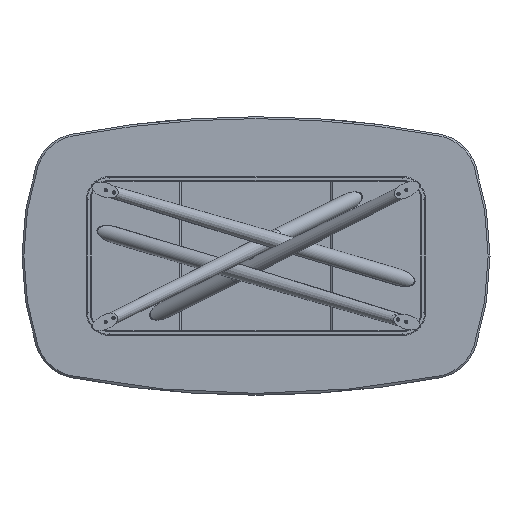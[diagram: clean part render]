
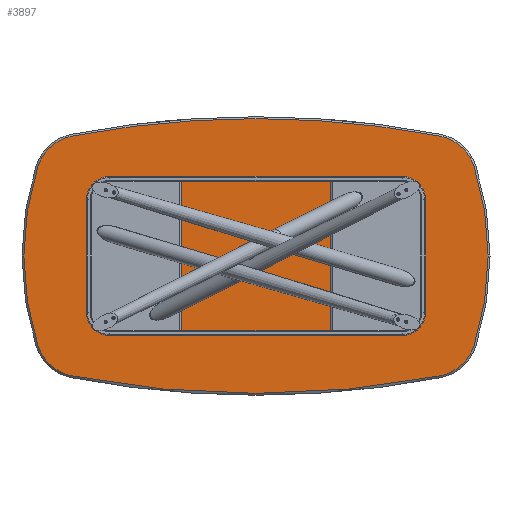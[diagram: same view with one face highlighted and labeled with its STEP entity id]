
A CAD part, front view. The second image highlights one B-rep face of the part: STEP entity #3897.
In plain terms, the highlighted planar face has unit normal (0, -1, 0).
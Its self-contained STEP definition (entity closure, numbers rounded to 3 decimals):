
#169 = DIRECTION ( 'NONE',  ( 0., 0., 1. ) ) ;
#364 = CIRCLE ( 'NONE', #7161, 1252. ) ;
#426 = CARTESIAN_POINT ( 'NONE',  ( 0., 0., 3605. ) ) ;
#451 = CARTESIAN_POINT ( 'NONE',  ( 260., 0., 0. ) ) ;
#476 = ORIENTED_EDGE ( 'NONE', *, *, #9491, .T. ) ;
#561 = CARTESIAN_POINT ( 'NONE',  ( -749.201, 0., -324.211 ) ) ;
#575 = AXIS2_PLACEMENT_3D ( 'NONE', #6450, #9655, #4904 ) ;
#610 = DIRECTION ( 'NONE',  ( 0., 0., 1. ) ) ;
#680 = CARTESIAN_POINT ( 'NONE',  ( 0., 0., -3605. ) ) ;
#917 = DIRECTION ( 'NONE',  ( 0., -1., 0. ) ) ;
#1106 = CARTESIAN_POINT ( 'NONE',  ( 932., 0., 382.936 ) ) ;
#1118 = CIRCLE ( 'NONE', #7570, 1252. ) ;
#1187 = CARTESIAN_POINT ( 'NONE',  ( 0., 0., 587. ) ) ;
#1587 = DIRECTION ( 'NONE',  ( 0., -1., 0. ) ) ;
#1687 = AXIS2_PLACEMENT_3D ( 'NONE', #426, #7071, #2870 ) ;
#1748 = CARTESIAN_POINT ( 'NONE',  ( -785.163, 0., -512.813 ) ) ;
#2163 = DIRECTION ( 'NONE',  ( 0., 0., 1. ) ) ;
#2201 = EDGE_CURVE ( 'NONE', #6388, #2283, #6857, .T. ) ;
#2211 = EDGE_CURVE ( 'NONE', #4292, #9478, #2271, .T. ) ;
#2271 = CIRCLE ( 'NONE', #575, 192. ) ;
#2283 = VERTEX_POINT ( 'NONE', #5370 ) ;
#2338 = EDGE_CURVE ( 'NONE', #9072, #6005, #9376, .T. ) ;
#2509 = CARTESIAN_POINT ( 'NONE',  ( -785.163, 0., 512.813 ) ) ;
#2516 = FACE_OUTER_BOUND ( 'NONE', #9132, .T. ) ;
#2617 = DIRECTION ( 'NONE',  ( 0., 0., 1. ) ) ;
#2811 = ORIENTED_EDGE ( 'NONE', *, *, #2201, .T. ) ;
#2870 = DIRECTION ( 'NONE',  ( 0., 0., 1. ) ) ;
#2909 = CARTESIAN_POINT ( 'NONE',  ( -932., 0., 382.936 ) ) ;
#2951 = CARTESIAN_POINT ( 'NONE',  ( 0., 0., -3605. ) ) ;
#2959 = ORIENTED_EDGE ( 'NONE', *, *, #2338, .T. ) ;
#3290 = DIRECTION ( 'NONE',  ( 0., -1., 0. ) ) ;
#3519 = EDGE_CURVE ( 'NONE', #9478, #9072, #364, .T. ) ;
#3897 = ADVANCED_FACE ( 'NONE', ( #2516 ), #9817, .F. ) ;
#3933 = DIRECTION ( 'NONE',  ( 0., 0., 1. ) ) ;
#4292 = VERTEX_POINT ( 'NONE', #2509 ) ;
#4342 = CIRCLE ( 'NONE', #7042, 4192. ) ;
#4421 = ORIENTED_EDGE ( 'NONE', *, *, #4735, .T. ) ;
#4436 = CARTESIAN_POINT ( 'NONE',  ( -932., 0., -382.936 ) ) ;
#4488 = EDGE_CURVE ( 'NONE', #6005, #6388, #6286, .T. ) ;
#4491 = CIRCLE ( 'NONE', #5178, 4192. ) ;
#4735 = EDGE_CURVE ( 'NONE', #5228, #6297, #5148, .T. ) ;
#4827 = AXIS2_PLACEMENT_3D ( 'NONE', #5864, #917, #2617 ) ;
#4904 = DIRECTION ( 'NONE',  ( 0., 0., 1. ) ) ;
#5148 = CIRCLE ( 'NONE', #7682, 192. ) ;
#5178 = AXIS2_PLACEMENT_3D ( 'NONE', #680, #1587, #3933 ) ;
#5228 = VERTEX_POINT ( 'NONE', #1106 ) ;
#5370 = CARTESIAN_POINT ( 'NONE',  ( 932., 0., -382.936 ) ) ;
#5590 = CARTESIAN_POINT ( 'NONE',  ( 749.201, 0., 324.211 ) ) ;
#5824 = CARTESIAN_POINT ( 'NONE',  ( -130., 0., 1802.5 ) ) ;
#5864 = CARTESIAN_POINT ( 'NONE',  ( 749.201, 0., -324.211 ) ) ;
#6005 = VERTEX_POINT ( 'NONE', #1748 ) ;
#6164 = CARTESIAN_POINT ( 'NONE',  ( 785.163, 0., 512.813 ) ) ;
#6206 = DIRECTION ( 'NONE',  ( 0., -1., 0. ) ) ;
#6286 = CIRCLE ( 'NONE', #1687, 4192. ) ;
#6297 = VERTEX_POINT ( 'NONE', #6164 ) ;
#6388 = VERTEX_POINT ( 'NONE', #7858 ) ;
#6450 = CARTESIAN_POINT ( 'NONE',  ( -749.201, 0., 324.211 ) ) ;
#6708 = ORIENTED_EDGE ( 'NONE', *, *, #2211, .T. ) ;
#6857 = CIRCLE ( 'NONE', #4827, 192. ) ;
#7042 = AXIS2_PLACEMENT_3D ( 'NONE', #2951, #6206, #610 ) ;
#7052 = ORIENTED_EDGE ( 'NONE', *, *, #8769, .T. ) ;
#7071 = DIRECTION ( 'NONE',  ( 0., -1., 0. ) ) ;
#7161 = AXIS2_PLACEMENT_3D ( 'NONE', #451, #8296, #7493 ) ;
#7446 = ORIENTED_EDGE ( 'NONE', *, *, #7850, .T. ) ;
#7466 = DIRECTION ( 'NONE',  ( 0., 1., 0. ) ) ;
#7493 = DIRECTION ( 'NONE',  ( 0., 0., 1. ) ) ;
#7570 = AXIS2_PLACEMENT_3D ( 'NONE', #9429, #7644, #9375 ) ;
#7644 = DIRECTION ( 'NONE',  ( 0., -1., 0. ) ) ;
#7682 = AXIS2_PLACEMENT_3D ( 'NONE', #5590, #3290, #8801 ) ;
#7850 = EDGE_CURVE ( 'NONE', #9028, #4292, #4491, .T. ) ;
#7858 = CARTESIAN_POINT ( 'NONE',  ( 785.163, 0., -512.813 ) ) ;
#7864 = ORIENTED_EDGE ( 'NONE', *, *, #4488, .T. ) ;
#8296 = DIRECTION ( 'NONE',  ( 0., -1., 0. ) ) ;
#8364 = AXIS2_PLACEMENT_3D ( 'NONE', #5824, #7466, #169 ) ;
#8769 = EDGE_CURVE ( 'NONE', #6297, #9028, #4342, .T. ) ;
#8801 = DIRECTION ( 'NONE',  ( 0., 0., 1. ) ) ;
#9028 = VERTEX_POINT ( 'NONE', #1187 ) ;
#9048 = AXIS2_PLACEMENT_3D ( 'NONE', #561, #9423, #2163 ) ;
#9072 = VERTEX_POINT ( 'NONE', #4436 ) ;
#9132 = EDGE_LOOP ( 'NONE', ( #2959, #7864, #2811, #476, #4421, #7052, #7446, #6708, #9846 ) ) ;
#9375 = DIRECTION ( 'NONE',  ( 0., 0., 1. ) ) ;
#9376 = CIRCLE ( 'NONE', #9048, 192. ) ;
#9423 = DIRECTION ( 'NONE',  ( 0., -1., 0. ) ) ;
#9429 = CARTESIAN_POINT ( 'NONE',  ( -260., 0., 0. ) ) ;
#9478 = VERTEX_POINT ( 'NONE', #2909 ) ;
#9491 = EDGE_CURVE ( 'NONE', #2283, #5228, #1118, .T. ) ;
#9655 = DIRECTION ( 'NONE',  ( 0., -1., 0. ) ) ;
#9817 = PLANE ( 'NONE',  #8364 ) ;
#9846 = ORIENTED_EDGE ( 'NONE', *, *, #3519, .T. ) ;
